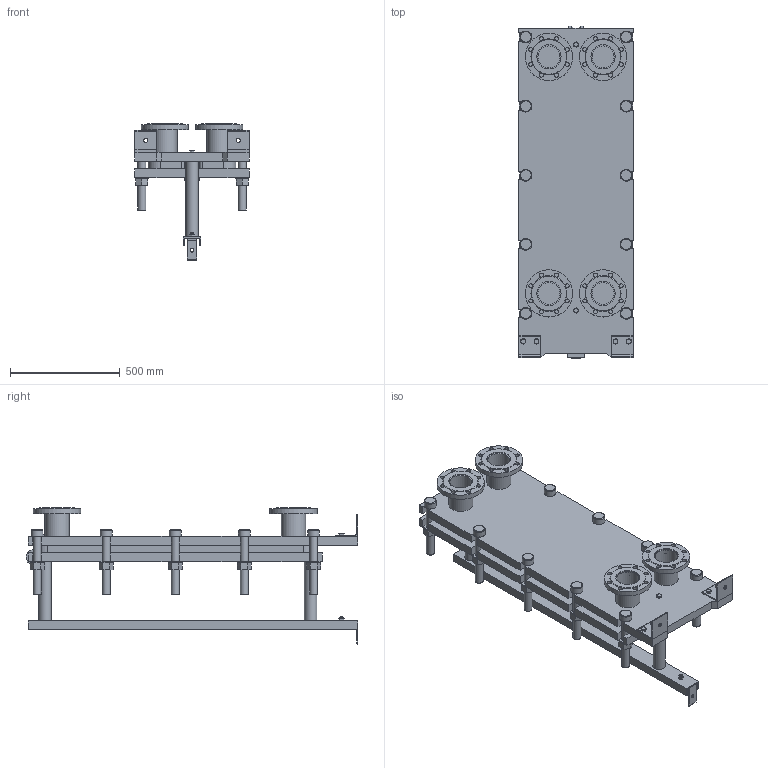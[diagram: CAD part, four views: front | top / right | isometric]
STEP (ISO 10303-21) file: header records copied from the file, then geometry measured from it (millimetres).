
FILE_DESCRIPTION(/* description */ (''),/* implementation_level */ '2;1');
FILE_NAME(/* name */ 'C:\Users\zhuro\Desktop\ENCO\TO\ЭН-04\ЭН-0,5-04-10-1.stp',/* time_stamp */ '2022-06-06T10:45:14+03:00',/* author */ ('zhuro'),/* organization */ (''),/* preprocessor_version */ 'ST-DEVELOPER v18.1',/* originating_system */ 'Autodesk Inventor 2022',/* authorisation */ '');
FILE_SCHEMA (('AUTOMOTIVE_DESIGN { 1 0 10303 214 3 1 1 }'));
Length unit declared in the file: millimetre
Products named in the file (1): ЭН-0,5-04-10-1
Bounding box: 520 x 1510 x 620 mm (x, y, z)
Volume: 83602589.8 mm3; surface area: 6376153.4 mm2
Topology: 45 solids, 45 shells, 668 faces, 1611 edges, 1048 vertices
Faces by surface type: plane 457, cylinder 166, cone 39, torus 6
Full cylindrical faces by diameter (mm): 8 x4, 10 x2, 16 x8, 18 x35, 36 x25, 40 x2, 42 x1, 45 x4, 54 x10, 57 x2, 60 x10, 68 x2, 100 x4, 110 x8, 215 x4
Entity records: 23607 total; most frequent: CARTESIAN_POINT 7348, DIRECTION 3371, ORIENTED_EDGE 3142, EDGE_CURVE 1571, AXIS2_PLACEMENT_3D 1199, VERTEX_POINT 1044, LINE 973, VECTOR 973
